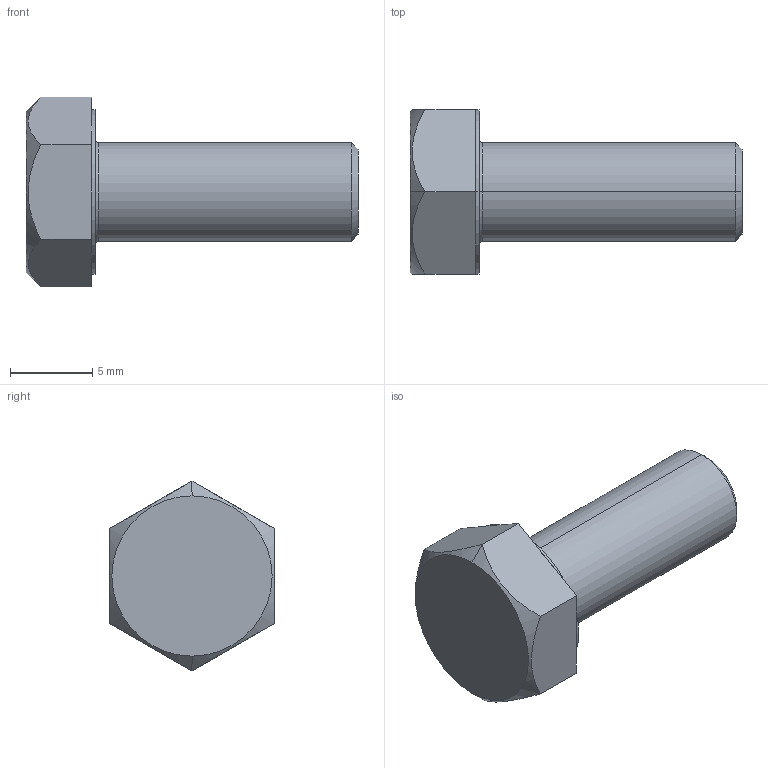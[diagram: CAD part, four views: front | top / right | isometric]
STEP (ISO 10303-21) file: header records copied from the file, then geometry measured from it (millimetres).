
FILE_DESCRIPTION (( 'STEP AP203' ), '1' );
FILE_NAME ('LGN-TD-M6x16.STEP', '2026-08-14T03:48:56', ( '' ), ( '' ), 'SwSTEP 2.0', 'SolidWorks 2020', '' );
FILE_SCHEMA (( 'CONFIG_CONTROL_DESIGN' ));
Length unit declared in the file: millimetre
Products named in the file (1): LGN-TD-M6x16
Bounding box: 20.2 x 10 x 11.55 mm (x, y, z)
Volume: 810.1 mm3; surface area: 604.8 mm2
Topology: 1 solids, 1 shells, 25 faces, 54 edges, 32 vertices
Faces by surface type: plane 15, cone 4, cylinder 4, torus 2
Entity records: 809 total; most frequent: CARTESIAN_POINT 182, DIRECTION 122, ORIENTED_EDGE 108, EDGE_CURVE 54, AXIS2_PLACEMENT_3D 48, VERTEX_POINT 32, VECTOR 26, LINE 26
